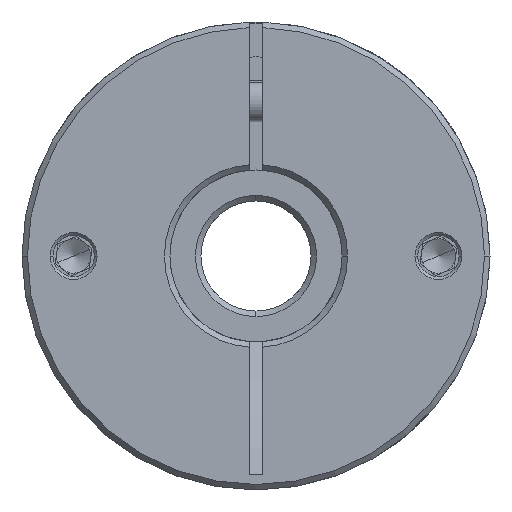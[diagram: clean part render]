
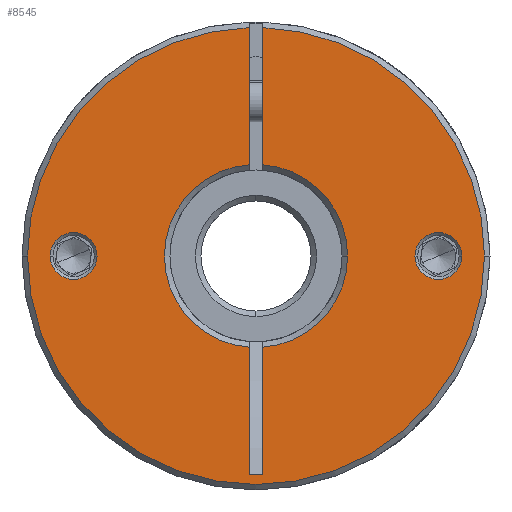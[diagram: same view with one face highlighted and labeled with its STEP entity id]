
A CAD part, front view. The second image highlights one B-rep face of the part: STEP entity #8545.
In plain terms, the highlighted planar face has unit normal (0, -1, 0).
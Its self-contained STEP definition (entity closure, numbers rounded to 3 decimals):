
#42 = DIRECTION ( 'NONE',  ( 1., 0., 0. ) ) ;
#99 = EDGE_CURVE ( 'NONE', #8704, #8562, #4632, .T. ) ;
#151 = DIRECTION ( 'NONE',  ( 0., 1., 0. ) ) ;
#286 = AXIS2_PLACEMENT_3D ( 'NONE', #6963, #9015, #728 ) ;
#728 = DIRECTION ( 'NONE',  ( 1., 0., 0. ) ) ;
#736 = DIRECTION ( 'NONE',  ( 0., -1., 0. ) ) ;
#755 = VERTEX_POINT ( 'NONE', #1444 ) ;
#829 = VECTOR ( 'NONE', #7871, 1000. ) ;
#830 = CARTESIAN_POINT ( 'NONE',  ( -1.735, -47.045, 68. ) ) ;
#832 = AXIS2_PLACEMENT_3D ( 'NONE', #12816, #10901, #10805 ) ;
#850 = VERTEX_POINT ( 'NONE', #7643 ) ;
#911 = DIRECTION ( 'NONE',  ( 1., 0., 0. ) ) ;
#1004 = ORIENTED_EDGE ( 'NONE', *, *, #99, .T. ) ;
#1032 = CARTESIAN_POINT ( 'NONE',  ( -2.735, -47.045, 68. ) ) ;
#1158 = DIRECTION ( 'NONE',  ( 1., 0., 0. ) ) ;
#1220 = AXIS2_PLACEMENT_3D ( 'NONE', #7060, #736, #2810 ) ;
#1289 = DIRECTION ( 'NONE',  ( 0., -1., 0. ) ) ;
#1322 = CARTESIAN_POINT ( 'NONE',  ( -3.735, -47.045, 54.738 ) ) ;
#1430 = CARTESIAN_POINT ( 'NONE',  ( 27.165, -47.045, 68. ) ) ;
#1444 = CARTESIAN_POINT ( 'NONE',  ( 30.465, -47.045, 68. ) ) ;
#1500 = VERTEX_POINT ( 'NONE', #7718 ) ;
#1510 = DIRECTION ( 'NONE',  ( 0., 1., 0. ) ) ;
#1577 = EDGE_CURVE ( 'NONE', #2256, #6299, #6769, .T. ) ;
#1741 = PLANE ( 'NONE',  #1220 ) ;
#1841 = CARTESIAN_POINT ( 'NONE',  ( 20.365, -47.045, 68. ) ) ;
#1894 = CARTESIAN_POINT ( 'NONE',  ( -1.735, -47.045, 101.185 ) ) ;
#1969 = DIRECTION ( 'NONE',  ( 0., 0., -1. ) ) ;
#2020 = EDGE_LOOP ( 'NONE', ( #2230, #6782, #2896, #9536, #3761, #12971, #10429, #7531, #10771, #7124, #1004 ) ) ;
#2065 = DIRECTION ( 'NONE',  ( 0., 1., 0. ) ) ;
#2084 = VERTEX_POINT ( 'NONE', #10200 ) ;
#2209 = EDGE_CURVE ( 'NONE', #2084, #850, #8284, .T. ) ;
#2230 = ORIENTED_EDGE ( 'NONE', *, *, #4561, .F. ) ;
#2256 = VERTEX_POINT ( 'NONE', #4577 ) ;
#2267 = EDGE_CURVE ( 'NONE', #8704, #850, #9079, .T. ) ;
#2304 = CARTESIAN_POINT ( 'NONE',  ( -25.835, -47.045, 68. ) ) ;
#2724 = AXIS2_PLACEMENT_3D ( 'NONE', #6429, #151, #1158 ) ;
#2782 = AXIS2_PLACEMENT_3D ( 'NONE', #13017, #5690, #7924 ) ;
#2802 = LINE ( 'NONE', #7126, #7969 ) ;
#2810 = DIRECTION ( 'NONE',  ( 1., 0., 0. ) ) ;
#2884 = AXIS2_PLACEMENT_3D ( 'NONE', #10661, #6483, #7480 ) ;
#2896 = ORIENTED_EDGE ( 'NONE', *, *, #2944, .T. ) ;
#2944 = EDGE_CURVE ( 'NONE', #7905, #755, #3637, .T. ) ;
#3446 = DIRECTION ( 'NONE',  ( 1., 0., 0. ) ) ;
#3637 = CIRCLE ( 'NONE', #832, 33.2 ) ;
#3761 = ORIENTED_EDGE ( 'NONE', *, *, #9071, .T. ) ;
#3868 = FACE_OUTER_BOUND ( 'NONE', #2020, .T. ) ;
#4004 = VECTOR ( 'NONE', #1969, 1000. ) ;
#4013 = DIRECTION ( 'NONE',  ( 0., 0., -1. ) ) ;
#4113 = DIRECTION ( 'NONE',  ( 0., 1., 0. ) ) ;
#4221 = EDGE_CURVE ( 'NONE', #11363, #7246, #13196, .T. ) ;
#4561 = EDGE_CURVE ( 'NONE', #1500, #8562, #2802, .T. ) ;
#4577 = CARTESIAN_POINT ( 'NONE',  ( -1.735, -47.045, 81.262 ) ) ;
#4632 = CIRCLE ( 'NONE', #4915, 13.3 ) ;
#4662 = FACE_BOUND ( 'NONE', #6271, .T. ) ;
#4847 = VERTEX_POINT ( 'NONE', #9680 ) ;
#4915 = AXIS2_PLACEMENT_3D ( 'NONE', #12377, #2065, #42 ) ;
#5023 = VERTEX_POINT ( 'NONE', #1841 ) ;
#5110 = LINE ( 'NONE', #830, #4004 ) ;
#5152 = CIRCLE ( 'NONE', #2724, 3.4 ) ;
#5513 = VECTOR ( 'NONE', #8751, 1000. ) ;
#5690 = DIRECTION ( 'NONE',  ( 0., -1., 0. ) ) ;
#5758 = CARTESIAN_POINT ( 'NONE',  ( -3.735, -47.045, 36.279 ) ) ;
#5812 = CARTESIAN_POINT ( 'NONE',  ( 10.565, -47.045, 68. ) ) ;
#5834 = AXIS2_PLACEMENT_3D ( 'NONE', #1032, #4113, #911 ) ;
#6140 = CARTESIAN_POINT ( 'NONE',  ( 23.765, -47.045, 68. ) ) ;
#6271 = EDGE_LOOP ( 'NONE', ( #12149, #13135 ) ) ;
#6299 = VERTEX_POINT ( 'NONE', #5812 ) ;
#6429 = CARTESIAN_POINT ( 'NONE',  ( 23.765, -47.045, 68. ) ) ;
#6483 = DIRECTION ( 'NONE',  ( 0., 1., 0. ) ) ;
#6769 = CIRCLE ( 'NONE', #286, 13.3 ) ;
#6782 = ORIENTED_EDGE ( 'NONE', *, *, #8318, .T. ) ;
#6789 = CARTESIAN_POINT ( 'NONE',  ( -3.735, -47.045, 68. ) ) ;
#6806 = ORIENTED_EDGE ( 'NONE', *, *, #11132, .T. ) ;
#6892 = AXIS2_PLACEMENT_3D ( 'NONE', #7713, #1510, #3446 ) ;
#6963 = CARTESIAN_POINT ( 'NONE',  ( -2.735, -47.045, 68. ) ) ;
#7060 = CARTESIAN_POINT ( 'NONE',  ( -2.735, -47.045, 68. ) ) ;
#7124 = ORIENTED_EDGE ( 'NONE', *, *, #2267, .F. ) ;
#7126 = CARTESIAN_POINT ( 'NONE',  ( -3.735, -47.045, 68. ) ) ;
#7193 = CIRCLE ( 'NONE', #2782, 33.2 ) ;
#7203 = DIRECTION ( 'NONE',  ( 1., 0., 0. ) ) ;
#7246 = VERTEX_POINT ( 'NONE', #10786 ) ;
#7480 = DIRECTION ( 'NONE',  ( 1., 0., 0. ) ) ;
#7531 = ORIENTED_EDGE ( 'NONE', *, *, #9533, .T. ) ;
#7643 = CARTESIAN_POINT ( 'NONE',  ( -3.735, -47.045, 36.279 ) ) ;
#7713 = CARTESIAN_POINT ( 'NONE',  ( -29.235, -47.045, 68. ) ) ;
#7718 = CARTESIAN_POINT ( 'NONE',  ( -3.735, -47.045, 101.185 ) ) ;
#7871 = DIRECTION ( 'NONE',  ( 0., 0., -1. ) ) ;
#7875 = CIRCLE ( 'NONE', #13251, 3.4 ) ;
#7905 = VERTEX_POINT ( 'NONE', #9969 ) ;
#7924 = DIRECTION ( 'NONE',  ( 1., 0., 0. ) ) ;
#7969 = VECTOR ( 'NONE', #4013, 1000. ) ;
#8066 = VECTOR ( 'NONE', #13295, 1000. ) ;
#8195 = EDGE_CURVE ( 'NONE', #5023, #11307, #5152, .T. ) ;
#8284 = LINE ( 'NONE', #5758, #5513 ) ;
#8318 = EDGE_CURVE ( 'NONE', #1500, #7905, #13467, .T. ) ;
#8545 = ADVANCED_FACE ( 'NONE', ( #13303, #4662, #3868 ), #1741, .T. ) ;
#8562 = VERTEX_POINT ( 'NONE', #10313 ) ;
#8704 = VERTEX_POINT ( 'NONE', #1322 ) ;
#8751 = DIRECTION ( 'NONE',  ( -1., 0., 0. ) ) ;
#9015 = DIRECTION ( 'NONE',  ( 0., 1., 0. ) ) ;
#9071 = EDGE_CURVE ( 'NONE', #10357, #2256, #12803, .T. ) ;
#9079 = LINE ( 'NONE', #6789, #829 ) ;
#9305 = ORIENTED_EDGE ( 'NONE', *, *, #8195, .T. ) ;
#9361 = AXIS2_PLACEMENT_3D ( 'NONE', #10818, #1289, #10688 ) ;
#9531 = CIRCLE ( 'NONE', #6892, 3.4 ) ;
#9533 = EDGE_CURVE ( 'NONE', #4847, #2084, #5110, .T. ) ;
#9536 = ORIENTED_EDGE ( 'NONE', *, *, #13084, .T. ) ;
#9680 = CARTESIAN_POINT ( 'NONE',  ( -1.735, -47.045, 54.738 ) ) ;
#9706 = EDGE_CURVE ( 'NONE', #7246, #11363, #9531, .T. ) ;
#9879 = EDGE_CURVE ( 'NONE', #6299, #4847, #10173, .T. ) ;
#9969 = CARTESIAN_POINT ( 'NONE',  ( -35.935, -47.045, 68. ) ) ;
#10173 = CIRCLE ( 'NONE', #5834, 13.3 ) ;
#10200 = CARTESIAN_POINT ( 'NONE',  ( -1.735, -47.045, 36.279 ) ) ;
#10313 = CARTESIAN_POINT ( 'NONE',  ( -3.735, -47.045, 81.262 ) ) ;
#10357 = VERTEX_POINT ( 'NONE', #1894 ) ;
#10429 = ORIENTED_EDGE ( 'NONE', *, *, #9879, .T. ) ;
#10661 = CARTESIAN_POINT ( 'NONE',  ( -29.235, -47.045, 68. ) ) ;
#10688 = DIRECTION ( 'NONE',  ( 1., 0., 0. ) ) ;
#10771 = ORIENTED_EDGE ( 'NONE', *, *, #2209, .T. ) ;
#10786 = CARTESIAN_POINT ( 'NONE',  ( -32.635, -47.045, 68. ) ) ;
#10805 = DIRECTION ( 'NONE',  ( 1., 0., 0. ) ) ;
#10818 = CARTESIAN_POINT ( 'NONE',  ( -2.735, -47.045, 68. ) ) ;
#10901 = DIRECTION ( 'NONE',  ( 0., -1., 0. ) ) ;
#11132 = EDGE_CURVE ( 'NONE', #11307, #5023, #7875, .T. ) ;
#11307 = VERTEX_POINT ( 'NONE', #1430 ) ;
#11363 = VERTEX_POINT ( 'NONE', #2304 ) ;
#12149 = ORIENTED_EDGE ( 'NONE', *, *, #4221, .T. ) ;
#12220 = CARTESIAN_POINT ( 'NONE',  ( -1.735, -47.045, 68. ) ) ;
#12377 = CARTESIAN_POINT ( 'NONE',  ( -2.735, -47.045, 68. ) ) ;
#12803 = LINE ( 'NONE', #12220, #8066 ) ;
#12816 = CARTESIAN_POINT ( 'NONE',  ( -2.735, -47.045, 68. ) ) ;
#12971 = ORIENTED_EDGE ( 'NONE', *, *, #1577, .T. ) ;
#13017 = CARTESIAN_POINT ( 'NONE',  ( -2.735, -47.045, 68. ) ) ;
#13084 = EDGE_CURVE ( 'NONE', #755, #10357, #7193, .T. ) ;
#13135 = ORIENTED_EDGE ( 'NONE', *, *, #9706, .T. ) ;
#13196 = CIRCLE ( 'NONE', #2884, 3.4 ) ;
#13251 = AXIS2_PLACEMENT_3D ( 'NONE', #6140, #13407, #7203 ) ;
#13295 = DIRECTION ( 'NONE',  ( 0., 0., -1. ) ) ;
#13303 = FACE_BOUND ( 'NONE', #13318, .T. ) ;
#13318 = EDGE_LOOP ( 'NONE', ( #6806, #9305 ) ) ;
#13407 = DIRECTION ( 'NONE',  ( 0., 1., 0. ) ) ;
#13467 = CIRCLE ( 'NONE', #9361, 33.2 ) ;
